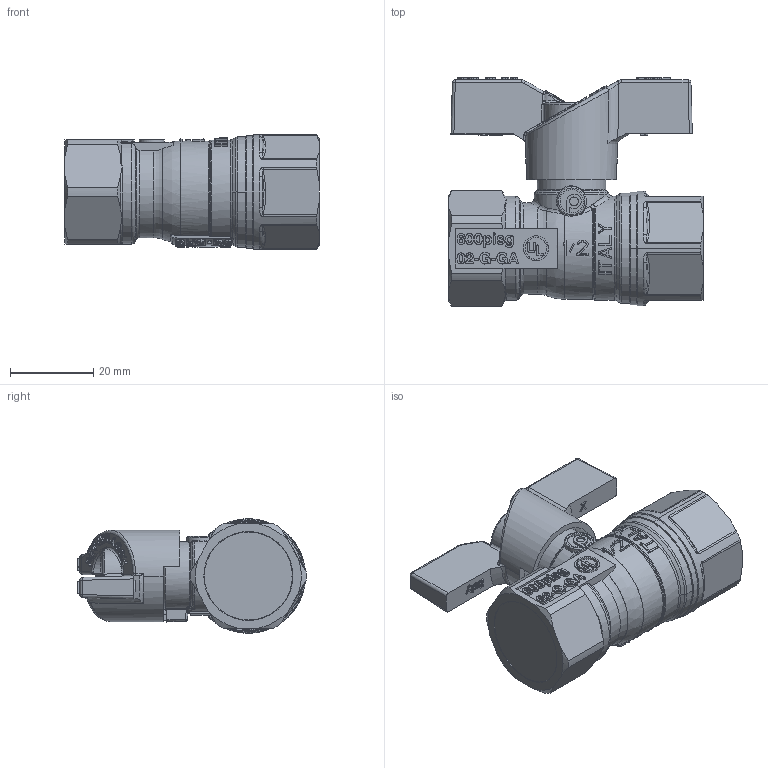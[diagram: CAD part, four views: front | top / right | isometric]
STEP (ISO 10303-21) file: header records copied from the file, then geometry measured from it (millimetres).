
FILE_DESCRIPTION((''),'2;1');
FILE_NAME('T204FF_1-2_ASM','2022-05-19T16:10:01',('Sergio.Dandrea'),(''),'CREO PARAMETRIC BY PTC INC, 2021164','CREO PARAMETRIC BY PTC INC, 2021164','');
FILE_SCHEMA(('CONFIG_CONTROL_DESIGN'));
Products named in the file (8): 89125; 89085; 87057; 88402; SEDE_PTFE_F12; 89176; 87131; T204FF_1-2_ASM
Assembly tree (8 placements, depth 2):
  T204FF_1-2_ASM
    89125
    89085
    87057
    88402
    SEDE_PTFE_F12  x2
    89176
    87131
Bounding box: 61.1 x 54.9 x 27.5 mm (x, y, z)
Volume: 27574.8 mm3; surface area: 24334.4 mm2
Topology: 8 solids, 15 shells, 2021 faces, 5383 edges, 3495 vertices
Faces by surface type: extrusion 586, plane 565, bspline 497, cylinder 182, cone 94, torus 75, sphere 22
Entity records: 87759 total; most frequent: CARTESIAN_POINT 43174, ORIENTED_EDGE 10669, DIRECTION 6228, EDGE_CURVE 5353, VERTEX_POINT 3479, VECTOR 2908, B_SPLINE_CURVE_WITH_KNOTS 2905, LINE 2322
